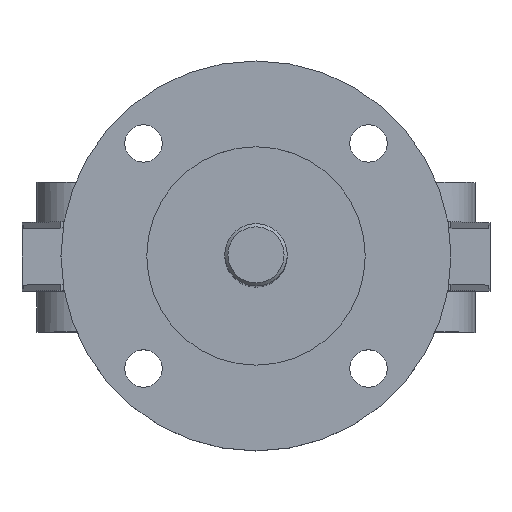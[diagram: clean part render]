
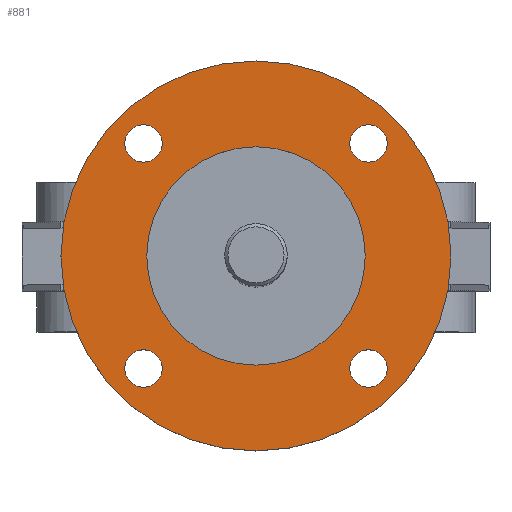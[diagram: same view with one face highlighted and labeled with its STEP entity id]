
A CAD part, top view. The second image highlights one B-rep face of the part: STEP entity #881.
In plain terms, the highlighted planar face has unit normal (0, 0, 1).
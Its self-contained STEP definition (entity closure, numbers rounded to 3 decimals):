
#881=ADVANCED_FACE('',(#2172,#2174,#2176,#2178,#2180,#2182),#2184,.T.);
#2172=FACE_BOUND('',#2173,.T.);
#2173=EDGE_LOOP('',(#3258));
#2174=FACE_BOUND('',#2175,.T.);
#2175=EDGE_LOOP('',(#3259));
#2176=FACE_BOUND('',#2177,.T.);
#2177=EDGE_LOOP('',(#3260));
#2178=FACE_BOUND('',#2179,.T.);
#2179=EDGE_LOOP('',(#3261));
#2180=FACE_BOUND('',#2181,.T.);
#2181=EDGE_LOOP('',(#3262));
#2182=FACE_BOUND('',#2183,.T.);
#2183=EDGE_LOOP('',(#3263));
#2184=PLANE('',#2185);
#2185=AXIS2_PLACEMENT_3D('',#2186,#2187,#2188);
#2186=CARTESIAN_POINT('',(0.,0.,279.));
#2187=DIRECTION('',(0.,0.,1.));
#2188=DIRECTION('',(-1.,0.,0.));
#3258=ORIENTED_EDGE('',*,*,#3745,.T.);
#3259=ORIENTED_EDGE('',*,*,#3746,.T.);
#3260=ORIENTED_EDGE('',*,*,#3747,.T.);
#3261=ORIENTED_EDGE('',*,*,#3748,.T.);
#3262=ORIENTED_EDGE('',*,*,#3853,.T.);
#3263=ORIENTED_EDGE('',*,*,#3749,.T.);
#3745=EDGE_CURVE('',#4313,#4313,#4314,.T.);
#3746=EDGE_CURVE('',#4315,#4315,#4316,.F.);
#3747=EDGE_CURVE('',#4317,#4317,#4318,.F.);
#3748=EDGE_CURVE('',#4319,#4319,#4320,.F.);
#3749=EDGE_CURVE('',#4321,#4321,#4322,.F.);
#3853=EDGE_CURVE('',#4501,#4501,#4502,.F.);
#4313=VERTEX_POINT('',#5483);
#4314=CIRCLE('',#5484,62.5);
#4315=VERTEX_POINT('',#5488);
#4316=CIRCLE('',#5489,6.);
#4317=VERTEX_POINT('',#5493);
#4318=CIRCLE('',#5494,6.);
#4319=VERTEX_POINT('',#5498);
#4320=CIRCLE('',#5499,6.);
#4321=VERTEX_POINT('',#5503);
#4322=CIRCLE('',#5504,6.);
#4501=VERTEX_POINT('',#5937);
#4502=CIRCLE('',#5938,35.);
#5483=CARTESIAN_POINT('',(-62.5,0.,279.));
#5484=AXIS2_PLACEMENT_3D('',#5485,#5486,#5487);
#5485=CARTESIAN_POINT('',(0.,0.,279.));
#5486=DIRECTION('',(0.,0.,1.));
#5487=DIRECTION('',(-1.,0.,0.));
#5488=CARTESIAN_POINT('',(30.062,-36.062,279.));
#5489=AXIS2_PLACEMENT_3D('',#5490,#5491,#5492);
#5490=CARTESIAN_POINT('',(36.062,-36.062,279.));
#5491=DIRECTION('',(0.,0.,1.));
#5492=DIRECTION('',(-1.,0.,0.));
#5493=CARTESIAN_POINT('',(36.062,30.062,279.));
#5494=AXIS2_PLACEMENT_3D('',#5495,#5496,#5497);
#5495=CARTESIAN_POINT('',(36.062,36.062,279.));
#5496=DIRECTION('',(0.,0.,1.));
#5497=DIRECTION('',(0.,-1.,0.));
#5498=CARTESIAN_POINT('',(-30.062,36.062,279.));
#5499=AXIS2_PLACEMENT_3D('',#5500,#5501,#5502);
#5500=CARTESIAN_POINT('',(-36.062,36.062,279.));
#5501=DIRECTION('',(0.,0.,1.));
#5502=DIRECTION('',(1.,0.,-0.));
#5503=CARTESIAN_POINT('',(-36.062,-30.062,279.));
#5504=AXIS2_PLACEMENT_3D('',#5505,#5506,#5507);
#5505=CARTESIAN_POINT('',(-36.062,-36.062,279.));
#5506=DIRECTION('',(0.,0.,1.));
#5507=DIRECTION('',(0.,1.,0.));
#5937=CARTESIAN_POINT('',(0.,35.,279.));
#5938=AXIS2_PLACEMENT_3D('',#5939,#5940,#5941);
#5939=CARTESIAN_POINT('',(0.,0.,279.));
#5940=DIRECTION('',(0.,0.,1.));
#5941=DIRECTION('',(0.,1.,0.));
